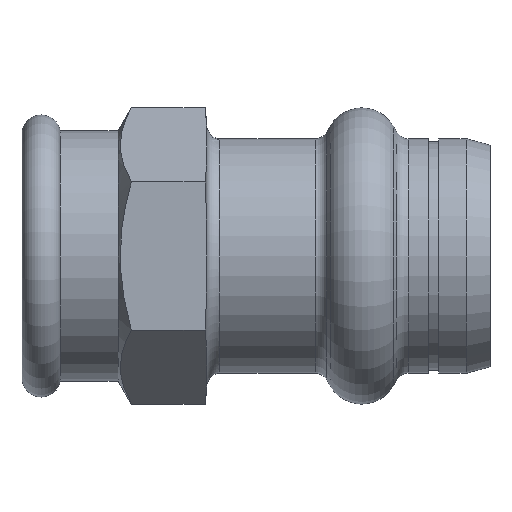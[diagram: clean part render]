
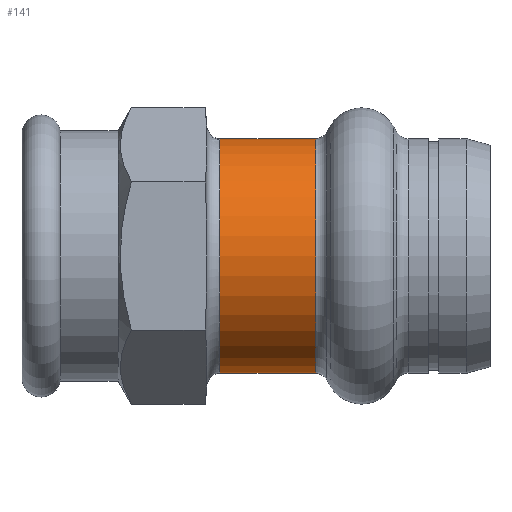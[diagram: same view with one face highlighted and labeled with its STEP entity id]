
A CAD part, left-side view. The second image highlights one B-rep face of the part: STEP entity #141.
In plain terms, the highlighted cylindrical face has radius 9.15 mm (diameter 18.3 mm), a partial arc.
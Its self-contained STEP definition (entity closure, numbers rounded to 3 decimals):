
#141 = ADVANCED_FACE ( 'NONE', ( #1848 ), #330, .T. ) ;
#219 = DIRECTION ( 'NONE',  ( 0., 0., -1. ) ) ;
#236 = DIRECTION ( 'NONE',  ( 0., -1., 0. ) ) ;
#323 = DIRECTION ( 'NONE',  ( 0., -1., 0. ) ) ;
#330 = CYLINDRICAL_SURFACE ( 'NONE', #959, 9.15 ) ;
#332 = EDGE_CURVE ( 'NONE', #1867, #975, #430, .T. ) ;
#349 = DIRECTION ( 'NONE',  ( 0., 0., -1. ) ) ;
#388 = CARTESIAN_POINT ( 'NONE',  ( 0., -17.811, 0. ) ) ;
#430 = CIRCLE ( 'NONE', #696, 9.15 ) ;
#547 = CARTESIAN_POINT ( 'NONE',  ( 0., 21.084, -9.15 ) ) ;
#602 = LINE ( 'NONE', #1610, #1435 ) ;
#637 = DIRECTION ( 'NONE',  ( 0., -1., 0. ) ) ;
#696 = AXIS2_PLACEMENT_3D ( 'NONE', #755, #1727, #219 ) ;
#718 = ORIENTED_EDGE ( 'NONE', *, *, #1587, .T. ) ;
#726 = CARTESIAN_POINT ( 'NONE',  ( 0., 13.608, 9.15 ) ) ;
#755 = CARTESIAN_POINT ( 'NONE',  ( 0., 13.608, 0. ) ) ;
#774 = CARTESIAN_POINT ( 'NONE',  ( 0., 21.084, 0. ) ) ;
#936 = LINE ( 'NONE', #995, #1664 ) ;
#945 = VERTEX_POINT ( 'NONE', #1494 ) ;
#946 = AXIS2_PLACEMENT_3D ( 'NONE', #774, #1381, #1718 ) ;
#959 = AXIS2_PLACEMENT_3D ( 'NONE', #388, #637, #349 ) ;
#975 = VERTEX_POINT ( 'NONE', #1928 ) ;
#995 = CARTESIAN_POINT ( 'NONE',  ( 0., -17.811, -9.15 ) ) ;
#1143 = EDGE_LOOP ( 'NONE', ( #1722, #1651, #718, #1591 ) ) ;
#1215 = EDGE_CURVE ( 'NONE', #945, #1295, #1419, .T. ) ;
#1295 = VERTEX_POINT ( 'NONE', #547 ) ;
#1381 = DIRECTION ( 'NONE',  ( 0., -1., 0. ) ) ;
#1419 = CIRCLE ( 'NONE', #946, 9.15 ) ;
#1435 = VECTOR ( 'NONE', #236, 1000. ) ;
#1494 = CARTESIAN_POINT ( 'NONE',  ( 0., 21.084, 9.15 ) ) ;
#1497 = EDGE_CURVE ( 'NONE', #945, #1867, #602, .T. ) ;
#1587 = EDGE_CURVE ( 'NONE', #1295, #975, #936, .T. ) ;
#1591 = ORIENTED_EDGE ( 'NONE', *, *, #332, .F. ) ;
#1610 = CARTESIAN_POINT ( 'NONE',  ( 0., -17.811, 9.15 ) ) ;
#1651 = ORIENTED_EDGE ( 'NONE', *, *, #1215, .T. ) ;
#1664 = VECTOR ( 'NONE', #323, 1000. ) ;
#1718 = DIRECTION ( 'NONE',  ( 0., 0., -1. ) ) ;
#1722 = ORIENTED_EDGE ( 'NONE', *, *, #1497, .F. ) ;
#1727 = DIRECTION ( 'NONE',  ( 0., -1., 0. ) ) ;
#1848 = FACE_OUTER_BOUND ( 'NONE', #1143, .T. ) ;
#1867 = VERTEX_POINT ( 'NONE', #726 ) ;
#1928 = CARTESIAN_POINT ( 'NONE',  ( 0., 13.608, -9.15 ) ) ;
